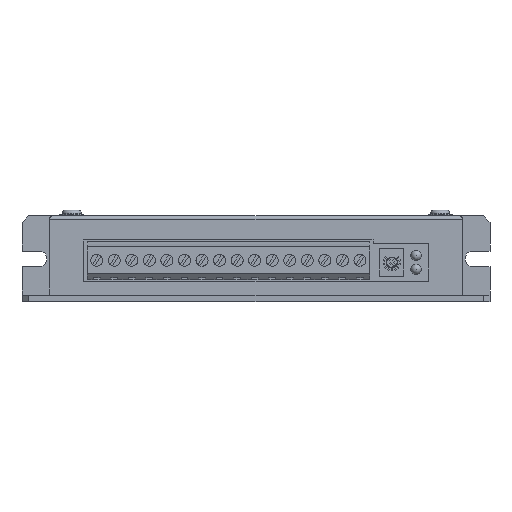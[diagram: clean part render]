
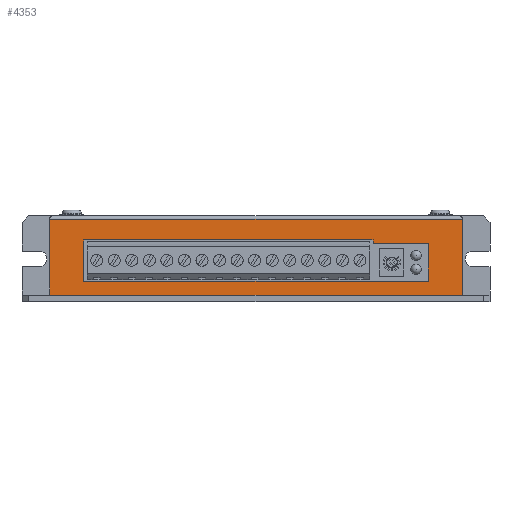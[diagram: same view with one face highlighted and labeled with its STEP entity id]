
A CAD part, front view. The second image highlights one B-rep face of the part: STEP entity #4353.
In plain terms, the highlighted planar face has unit normal (0, -1, 0).
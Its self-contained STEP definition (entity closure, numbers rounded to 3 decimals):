
#509 = VERTEX_POINT ( 'NONE', #15726 ) ;
#510 = VERTEX_POINT ( 'NONE', #15725 ) ;
#515 = VERTEX_POINT ( 'NONE', #15719 ) ;
#516 = VERTEX_POINT ( 'NONE', #15717 ) ;
#517 = VERTEX_POINT ( 'NONE', #15716 ) ;
#518 = VERTEX_POINT ( 'NONE', #15715 ) ;
#519 = VERTEX_POINT ( 'NONE', #15714 ) ;
#520 = VERTEX_POINT ( 'NONE', #15713 ) ;
#521 = VERTEX_POINT ( 'NONE', #15712 ) ;
#523 = VERTEX_POINT ( 'NONE', #15710 ) ;
#4353 = ADVANCED_FACE ( 'NONE', ( #17844, #17843 ), #17117, .F. ) ;
#8596 = EDGE_LOOP ( 'NONE', ( #11438, #11440, #11442, #11444, #11446, #11448 ) ) ;
#8640 = EDGE_LOOP ( 'NONE', ( #11450, #11452, #11454, #11456 ) ) ;
#10613 = EDGE_CURVE ( 'NONE', #521, #523, #25674, .T. ) ;
#10614 = EDGE_CURVE ( 'NONE', #510, #523, #25675, .T. ) ;
#11438 = ORIENTED_EDGE ( 'NONE', *, *, #12515, .F. ) ;
#11440 = ORIENTED_EDGE ( 'NONE', *, *, #12514, .F. ) ;
#11442 = ORIENTED_EDGE ( 'NONE', *, *, #12511, .F. ) ;
#11444 = ORIENTED_EDGE ( 'NONE', *, *, #12516, .F. ) ;
#11446 = ORIENTED_EDGE ( 'NONE', *, *, #12512, .F. ) ;
#11448 = ORIENTED_EDGE ( 'NONE', *, *, #12513, .F. ) ;
#11450 = ORIENTED_EDGE ( 'NONE', *, *, #10613, .F. ) ;
#11452 = ORIENTED_EDGE ( 'NONE', *, *, #12517, .T. ) ;
#11454 = ORIENTED_EDGE ( 'NONE', *, *, #12508, .T. ) ;
#11456 = ORIENTED_EDGE ( 'NONE', *, *, #10614, .T. ) ;
#12508 = EDGE_CURVE ( 'NONE', #509, #510, #26484, .T. ) ;
#12511 = EDGE_CURVE ( 'NONE', #518, #517, #26494, .T. ) ;
#12512 = EDGE_CURVE ( 'NONE', #520, #519, #26480, .T. ) ;
#12513 = EDGE_CURVE ( 'NONE', #516, #520, #26483, .T. ) ;
#12514 = EDGE_CURVE ( 'NONE', #517, #515, #26500, .T. ) ;
#12515 = EDGE_CURVE ( 'NONE', #515, #516, #26489, .T. ) ;
#12516 = EDGE_CURVE ( 'NONE', #519, #518, #26504, .T. ) ;
#12517 = EDGE_CURVE ( 'NONE', #521, #509, #26497, .T. ) ;
#14082 = AXIS2_PLACEMENT_3D ( 'NONE', #17110, #17118, #17119 ) ;
#15710 = CARTESIAN_POINT ( 'NONE',  ( 60., -40., -11.5 ) ) ;
#15712 = CARTESIAN_POINT ( 'NONE',  ( 60., -40., 10.5 ) ) ;
#15713 = CARTESIAN_POINT ( 'NONE',  ( 34., -40., 3.5 ) ) ;
#15714 = CARTESIAN_POINT ( 'NONE',  ( 34., -40., 4.5 ) ) ;
#15715 = CARTESIAN_POINT ( 'NONE',  ( -50., -40., 4.5 ) ) ;
#15716 = CARTESIAN_POINT ( 'NONE',  ( -50., -40., -7.5 ) ) ;
#15717 = CARTESIAN_POINT ( 'NONE',  ( 50., -40., 3.5 ) ) ;
#15719 = CARTESIAN_POINT ( 'NONE',  ( 50., -40., -7.5 ) ) ;
#15725 = CARTESIAN_POINT ( 'NONE',  ( -60., -40., -11.5 ) ) ;
#15726 = CARTESIAN_POINT ( 'NONE',  ( -60., -40., 10.5 ) ) ;
#17110 = CARTESIAN_POINT ( 'NONE',  ( -60., -40., 11.5 ) ) ;
#17117 = PLANE ( 'NONE',  #14082 ) ;
#17118 = DIRECTION ( 'NONE',  ( 0., 1., 0. ) ) ;
#17119 = DIRECTION ( 'NONE',  ( 0., 0., 1. ) ) ;
#17843 = FACE_OUTER_BOUND ( 'NONE', #8640, .T. ) ;
#17844 = FACE_BOUND ( 'NONE', #8596, .T. ) ;
#24979 = CARTESIAN_POINT ( 'NONE',  ( 60., -40., 11.5 ) ) ;
#24981 = CARTESIAN_POINT ( 'NONE',  ( -60., -40., -11.5 ) ) ;
#24982 = DIRECTION ( 'NONE',  ( 0., 0., -1. ) ) ;
#24984 = DIRECTION ( 'NONE',  ( 1., 0., 0. ) ) ;
#25674 = LINE ( 'NONE', #24979, #25678 ) ;
#25675 = LINE ( 'NONE', #24981, #25680 ) ;
#25678 = VECTOR ( 'NONE', #24982, 1000. ) ;
#25680 = VECTOR ( 'NONE', #24984, 1000. ) ;
#26480 = LINE ( 'NONE', #27101, #26496 ) ;
#26483 = LINE ( 'NONE', #27109, #26498 ) ;
#26484 = LINE ( 'NONE', #27090, #26488 ) ;
#26488 = VECTOR ( 'NONE', #27102, 1000. ) ;
#26489 = LINE ( 'NONE', #27111, #26502 ) ;
#26494 = LINE ( 'NONE', #27107, #26495 ) ;
#26495 = VECTOR ( 'NONE', #27108, 1000. ) ;
#26496 = VECTOR ( 'NONE', #27110, 1000. ) ;
#26497 = LINE ( 'NONE', #27115, #26506 ) ;
#26498 = VECTOR ( 'NONE', #27112, 1000. ) ;
#26500 = LINE ( 'NONE', #27113, #26501 ) ;
#26501 = VECTOR ( 'NONE', #27114, 1000. ) ;
#26502 = VECTOR ( 'NONE', #27116, 1000. ) ;
#26504 = LINE ( 'NONE', #27118, #26505 ) ;
#26505 = VECTOR ( 'NONE', #27119, 1000. ) ;
#26506 = VECTOR ( 'NONE', #27121, 1000. ) ;
#27090 = CARTESIAN_POINT ( 'NONE',  ( -60., -40., 11.5 ) ) ;
#27101 = CARTESIAN_POINT ( 'NONE',  ( 34., -40., 4.5 ) ) ;
#27102 = DIRECTION ( 'NONE',  ( 0., 0., -1. ) ) ;
#27107 = CARTESIAN_POINT ( 'NONE',  ( -50., -40., 4.5 ) ) ;
#27108 = DIRECTION ( 'NONE',  ( 0., 0., -1. ) ) ;
#27109 = CARTESIAN_POINT ( 'NONE',  ( 34., -40., 3.5 ) ) ;
#27110 = DIRECTION ( 'NONE',  ( 0., 0., 1. ) ) ;
#27111 = CARTESIAN_POINT ( 'NONE',  ( 50., -40., -7.5 ) ) ;
#27112 = DIRECTION ( 'NONE',  ( -1., 0., 0. ) ) ;
#27113 = CARTESIAN_POINT ( 'NONE',  ( -50., -40., -7.5 ) ) ;
#27114 = DIRECTION ( 'NONE',  ( 1., 0., 0. ) ) ;
#27115 = CARTESIAN_POINT ( 'NONE',  ( -60., -40., 10.5 ) ) ;
#27116 = DIRECTION ( 'NONE',  ( 0., 0., 1. ) ) ;
#27118 = CARTESIAN_POINT ( 'NONE',  ( -50., -40., 4.5 ) ) ;
#27119 = DIRECTION ( 'NONE',  ( -1., 0., 0. ) ) ;
#27121 = DIRECTION ( 'NONE',  ( -1., 0., 0. ) ) ;
